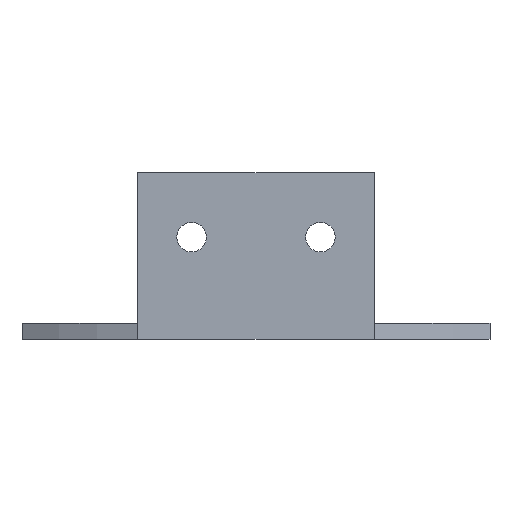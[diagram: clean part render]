
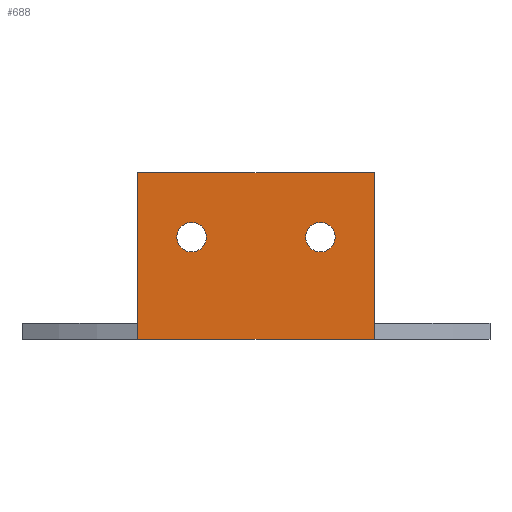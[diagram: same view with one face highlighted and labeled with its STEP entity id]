
A CAD part, front view. The second image highlights one B-rep face of the part: STEP entity #688.
In plain terms, the highlighted planar face has unit normal (0, -1, 0).
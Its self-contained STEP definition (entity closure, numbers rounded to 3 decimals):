
#32 = PLANE('',#33);
#33 = AXIS2_PLACEMENT_3D('',#34,#35,#36);
#34 = CARTESIAN_POINT('',(0.,0.,49.));
#35 = DIRECTION('',(0.,0.,1.));
#36 = DIRECTION('',(1.,0.,-0.));
#141 = VERTEX_POINT('',#142);
#142 = CARTESIAN_POINT('',(22.,-90.,49.));
#156 = PLANE('',#157);
#157 = AXIS2_PLACEMENT_3D('',#158,#159,#160);
#158 = CARTESIAN_POINT('',(22.,-90.,49.));
#159 = DIRECTION('',(1.,0.,-0.));
#160 = DIRECTION('',(0.,0.,1.));
#168 = EDGE_CURVE('',#169,#141,#171,.T.);
#169 = VERTEX_POINT('',#170);
#170 = CARTESIAN_POINT('',(-22.,-90.,49.));
#171 = SURFACE_CURVE('',#172,(#176,#183),.PCURVE_S1.);
#172 = LINE('',#173,#174);
#173 = CARTESIAN_POINT('',(-22.,-90.,49.));
#174 = VECTOR('',#175,1.);
#175 = DIRECTION('',(1.,0.,-0.));
#176 = PCURVE('',#32,#177);
#177 = DEFINITIONAL_REPRESENTATION('',(#178),#182);
#178 = LINE('',#179,#180);
#179 = CARTESIAN_POINT('',(-22.,-90.));
#180 = VECTOR('',#181,1.);
#181 = DIRECTION('',(1.,-0.));
#182 = ( GEOMETRIC_REPRESENTATION_CONTEXT(2) 
PARAMETRIC_REPRESENTATION_CONTEXT() REPRESENTATION_CONTEXT('2D SPACE',''
  ) );
#183 = PCURVE('',#184,#189);
#184 = PLANE('',#185);
#185 = AXIS2_PLACEMENT_3D('',#186,#187,#188);
#186 = CARTESIAN_POINT('',(-22.,-90.,49.));
#187 = DIRECTION('',(-0.,1.,0.));
#188 = DIRECTION('',(0.,0.,1.));
#189 = DEFINITIONAL_REPRESENTATION('',(#190),#194);
#190 = LINE('',#191,#192);
#191 = CARTESIAN_POINT('',(0.,0.));
#192 = VECTOR('',#193,1.);
#193 = DIRECTION('',(0.,1.));
#194 = ( GEOMETRIC_REPRESENTATION_CONTEXT(2) 
PARAMETRIC_REPRESENTATION_CONTEXT() REPRESENTATION_CONTEXT('2D SPACE',''
  ) );
#212 = PLANE('',#213);
#213 = AXIS2_PLACEMENT_3D('',#214,#215,#216);
#214 = CARTESIAN_POINT('',(-22.,-90.,49.));
#215 = DIRECTION('',(1.,0.,-0.));
#216 = DIRECTION('',(0.,0.,1.));
#538 = EDGE_CURVE('',#169,#539,#541,.T.);
#539 = VERTEX_POINT('',#540);
#540 = CARTESIAN_POINT('',(-22.,-90.,79.99));
#541 = SURFACE_CURVE('',#542,(#546,#553),.PCURVE_S1.);
#542 = LINE('',#543,#544);
#543 = CARTESIAN_POINT('',(-22.,-90.,49.));
#544 = VECTOR('',#545,1.);
#545 = DIRECTION('',(0.,0.,1.));
#546 = PCURVE('',#212,#547);
#547 = DEFINITIONAL_REPRESENTATION('',(#548),#552);
#548 = LINE('',#549,#550);
#549 = CARTESIAN_POINT('',(0.,0.));
#550 = VECTOR('',#551,1.);
#551 = DIRECTION('',(1.,0.));
#552 = ( GEOMETRIC_REPRESENTATION_CONTEXT(2) 
PARAMETRIC_REPRESENTATION_CONTEXT() REPRESENTATION_CONTEXT('2D SPACE',''
  ) );
#553 = PCURVE('',#184,#554);
#554 = DEFINITIONAL_REPRESENTATION('',(#555),#559);
#555 = LINE('',#556,#557);
#556 = CARTESIAN_POINT('',(0.,0.));
#557 = VECTOR('',#558,1.);
#558 = DIRECTION('',(1.,0.));
#559 = ( GEOMETRIC_REPRESENTATION_CONTEXT(2) 
PARAMETRIC_REPRESENTATION_CONTEXT() REPRESENTATION_CONTEXT('2D SPACE',''
  ) );
#628 = PLANE('',#629);
#629 = AXIS2_PLACEMENT_3D('',#630,#631,#632);
#630 = CARTESIAN_POINT('',(-22.,-90.,79.99));
#631 = DIRECTION('',(0.,0.,1.));
#632 = DIRECTION('',(1.,0.,-0.));
#688 = ADVANCED_FACE('',(#689,#737,#768),#184,.F.);
#689 = FACE_BOUND('',#690,.F.);
#690 = EDGE_LOOP('',(#691,#692,#693,#716));
#691 = ORIENTED_EDGE('',*,*,#168,.F.);
#692 = ORIENTED_EDGE('',*,*,#538,.T.);
#693 = ORIENTED_EDGE('',*,*,#694,.T.);
#694 = EDGE_CURVE('',#539,#695,#697,.T.);
#695 = VERTEX_POINT('',#696);
#696 = CARTESIAN_POINT('',(22.,-90.,79.99));
#697 = SURFACE_CURVE('',#698,(#702,#709),.PCURVE_S1.);
#698 = LINE('',#699,#700);
#699 = CARTESIAN_POINT('',(-22.,-90.,79.99));
#700 = VECTOR('',#701,1.);
#701 = DIRECTION('',(1.,0.,-0.));
#702 = PCURVE('',#184,#703);
#703 = DEFINITIONAL_REPRESENTATION('',(#704),#708);
#704 = LINE('',#705,#706);
#705 = CARTESIAN_POINT('',(30.99,0.));
#706 = VECTOR('',#707,1.);
#707 = DIRECTION('',(0.,1.));
#708 = ( GEOMETRIC_REPRESENTATION_CONTEXT(2) 
PARAMETRIC_REPRESENTATION_CONTEXT() REPRESENTATION_CONTEXT('2D SPACE',''
  ) );
#709 = PCURVE('',#628,#710);
#710 = DEFINITIONAL_REPRESENTATION('',(#711),#715);
#711 = LINE('',#712,#713);
#712 = CARTESIAN_POINT('',(0.,0.));
#713 = VECTOR('',#714,1.);
#714 = DIRECTION('',(1.,0.));
#715 = ( GEOMETRIC_REPRESENTATION_CONTEXT(2) 
PARAMETRIC_REPRESENTATION_CONTEXT() REPRESENTATION_CONTEXT('2D SPACE',''
  ) );
#716 = ORIENTED_EDGE('',*,*,#717,.T.);
#717 = EDGE_CURVE('',#695,#141,#718,.T.);
#718 = SURFACE_CURVE('',#719,(#723,#730),.PCURVE_S1.);
#719 = LINE('',#720,#721);
#720 = CARTESIAN_POINT('',(22.,-90.,79.99));
#721 = VECTOR('',#722,1.);
#722 = DIRECTION('',(0.,0.,-1.));
#723 = PCURVE('',#184,#724);
#724 = DEFINITIONAL_REPRESENTATION('',(#725),#729);
#725 = LINE('',#726,#727);
#726 = CARTESIAN_POINT('',(30.99,44.));
#727 = VECTOR('',#728,1.);
#728 = DIRECTION('',(-1.,0.));
#729 = ( GEOMETRIC_REPRESENTATION_CONTEXT(2) 
PARAMETRIC_REPRESENTATION_CONTEXT() REPRESENTATION_CONTEXT('2D SPACE',''
  ) );
#730 = PCURVE('',#156,#731);
#731 = DEFINITIONAL_REPRESENTATION('',(#732),#736);
#732 = LINE('',#733,#734);
#733 = CARTESIAN_POINT('',(30.99,0.));
#734 = VECTOR('',#735,1.);
#735 = DIRECTION('',(-1.,0.));
#736 = ( GEOMETRIC_REPRESENTATION_CONTEXT(2) 
PARAMETRIC_REPRESENTATION_CONTEXT() REPRESENTATION_CONTEXT('2D SPACE',''
  ) );
#737 = FACE_BOUND('',#738,.F.);
#738 = EDGE_LOOP('',(#739));
#739 = ORIENTED_EDGE('',*,*,#740,.F.);
#740 = EDGE_CURVE('',#741,#741,#743,.T.);
#741 = VERTEX_POINT('',#742);
#742 = CARTESIAN_POINT('',(-12.,-90.,70.75));
#743 = SURFACE_CURVE('',#744,(#749,#756),.PCURVE_S1.);
#744 = CIRCLE('',#745,2.75);
#745 = AXIS2_PLACEMENT_3D('',#746,#747,#748);
#746 = CARTESIAN_POINT('',(-12.,-90.,68.));
#747 = DIRECTION('',(0.,1.,0.));
#748 = DIRECTION('',(0.,-0.,1.));
#749 = PCURVE('',#184,#750);
#750 = DEFINITIONAL_REPRESENTATION('',(#751),#755);
#751 = CIRCLE('',#752,2.75);
#752 = AXIS2_PLACEMENT_2D('',#753,#754);
#753 = CARTESIAN_POINT('',(19.,10.));
#754 = DIRECTION('',(1.,0.));
#755 = ( GEOMETRIC_REPRESENTATION_CONTEXT(2) 
PARAMETRIC_REPRESENTATION_CONTEXT() REPRESENTATION_CONTEXT('2D SPACE',''
  ) );
#756 = PCURVE('',#757,#762);
#757 = CYLINDRICAL_SURFACE('',#758,2.75);
#758 = AXIS2_PLACEMENT_3D('',#759,#760,#761);
#759 = CARTESIAN_POINT('',(-12.,-95.,68.));
#760 = DIRECTION('',(0.,1.,0.));
#761 = DIRECTION('',(0.,-0.,1.));
#762 = DEFINITIONAL_REPRESENTATION('',(#763),#767);
#763 = LINE('',#764,#765);
#764 = CARTESIAN_POINT('',(0.,5.));
#765 = VECTOR('',#766,1.);
#766 = DIRECTION('',(1.,0.));
#767 = ( GEOMETRIC_REPRESENTATION_CONTEXT(2) 
PARAMETRIC_REPRESENTATION_CONTEXT() REPRESENTATION_CONTEXT('2D SPACE',''
  ) );
#768 = FACE_BOUND('',#769,.F.);
#769 = EDGE_LOOP('',(#770));
#770 = ORIENTED_EDGE('',*,*,#771,.F.);
#771 = EDGE_CURVE('',#772,#772,#774,.T.);
#772 = VERTEX_POINT('',#773);
#773 = CARTESIAN_POINT('',(12.,-90.,70.75));
#774 = SURFACE_CURVE('',#775,(#780,#787),.PCURVE_S1.);
#775 = CIRCLE('',#776,2.75);
#776 = AXIS2_PLACEMENT_3D('',#777,#778,#779);
#777 = CARTESIAN_POINT('',(12.,-90.,68.));
#778 = DIRECTION('',(0.,1.,0.));
#779 = DIRECTION('',(0.,-0.,1.));
#780 = PCURVE('',#184,#781);
#781 = DEFINITIONAL_REPRESENTATION('',(#782),#786);
#782 = CIRCLE('',#783,2.75);
#783 = AXIS2_PLACEMENT_2D('',#784,#785);
#784 = CARTESIAN_POINT('',(19.,34.));
#785 = DIRECTION('',(1.,0.));
#786 = ( GEOMETRIC_REPRESENTATION_CONTEXT(2) 
PARAMETRIC_REPRESENTATION_CONTEXT() REPRESENTATION_CONTEXT('2D SPACE',''
  ) );
#787 = PCURVE('',#788,#793);
#788 = CYLINDRICAL_SURFACE('',#789,2.75);
#789 = AXIS2_PLACEMENT_3D('',#790,#791,#792);
#790 = CARTESIAN_POINT('',(12.,-95.,68.));
#791 = DIRECTION('',(0.,1.,0.));
#792 = DIRECTION('',(0.,-0.,1.));
#793 = DEFINITIONAL_REPRESENTATION('',(#794),#798);
#794 = LINE('',#795,#796);
#795 = CARTESIAN_POINT('',(0.,5.));
#796 = VECTOR('',#797,1.);
#797 = DIRECTION('',(1.,0.));
#798 = ( GEOMETRIC_REPRESENTATION_CONTEXT(2) 
PARAMETRIC_REPRESENTATION_CONTEXT() REPRESENTATION_CONTEXT('2D SPACE',''
  ) );
